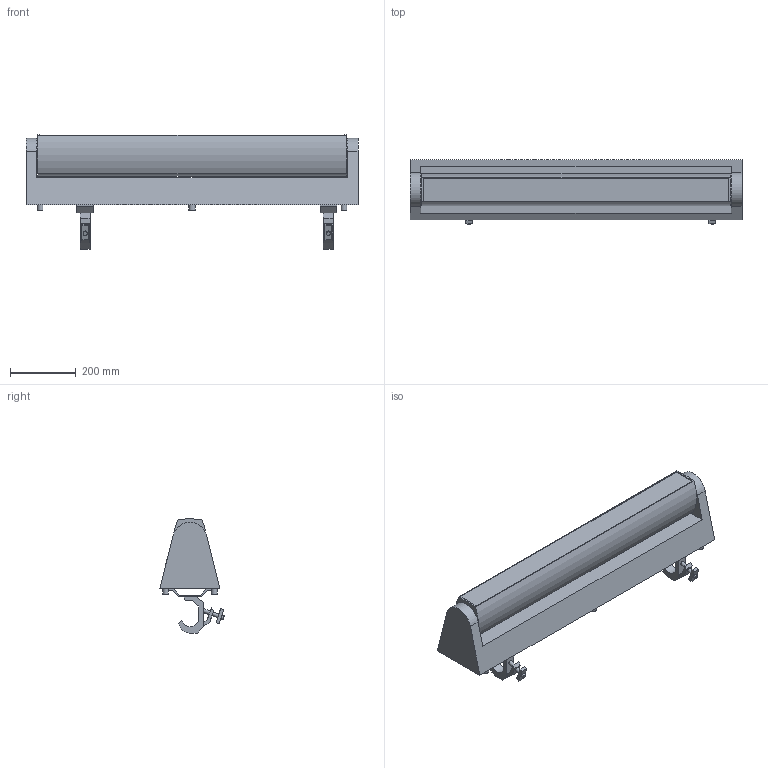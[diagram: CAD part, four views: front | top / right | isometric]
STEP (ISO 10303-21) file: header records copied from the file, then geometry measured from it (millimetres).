
FILE_DESCRIPTION( ( 'Unknown' ), '1' );
FILE_NAME( 'K:/ROBE-LED/36 Robin MovingLine/01 CycFX 8/05 2D_3D symbols/3D_CycFX_00.stp', 'Unknown', ( 'Ing.Rostislav Hába' ), ( 'ROBE lighting' ), 'PSStep 15.0.49', 'SolidEdge', ' ' );
FILE_SCHEMA( ( 'AUTOMOTIVE_DESIGN { 1 0 10303 214 1 1 1 1 }' ) );
Length unit declared in the file: millimetre
Products named in the file (6): Omega_SlimClamp; Clamp Doughty Slimline QT; Omega+SlimClamp; Assem1; Base CycFX; Head CycFx
Assembly tree (6 placements, depth 3):
  Assem1
    Base CycFX
    Head CycFx
    Omega_SlimClamp  x2
      Clamp Doughty Slimline QT
      Omega+SlimClamp
Bounding box: 1010 x 195.84 x 347.01 mm (x, y, z)
Volume: 26168087.3 mm3; surface area: 1216259.4 mm2
Topology: 6 solids, 6 shells, 158 faces, 380 edges, 259 vertices
Faces by surface type: plane 115, cylinder 43
Full cylindrical faces by diameter (mm): 11 x4, 12 x8, 13 x11, 17.158 x6, 18.5 x1, 26 x2, 48 x1
Entity records: 3806 total; most frequent: DIRECTION 508, CARTESIAN_POINT 476, ORIENTED_EDGE 412, EDGE_CURVE 206, AXIS2_PLACEMENT_3D 186, EDGE_LOOP 168, VERTEX_POINT 154, LINE 136
